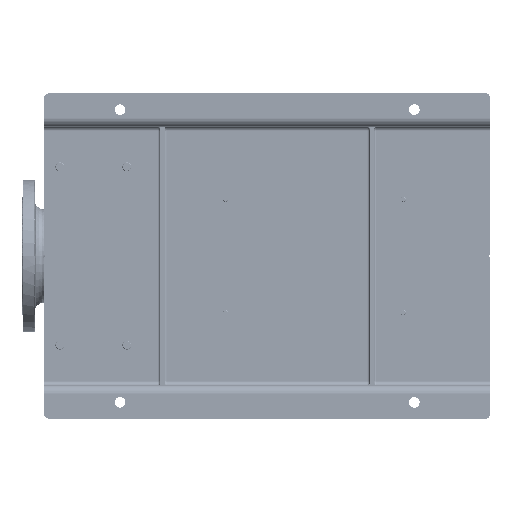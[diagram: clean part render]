
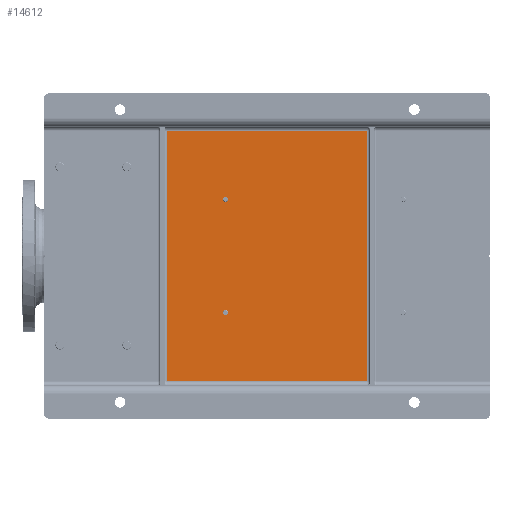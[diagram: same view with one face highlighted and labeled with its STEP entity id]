
A CAD part, front view. The second image highlights one B-rep face of the part: STEP entity #14612.
In plain terms, the highlighted planar face has unit normal (0, -1, 0).
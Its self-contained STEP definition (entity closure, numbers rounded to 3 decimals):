
#3683 = CIRCLE ( 'NONE', #32493, 6. ) ;
#7013 = VERTEX_POINT ( 'NONE', #97501 ) ;
#8690 = VERTEX_POINT ( 'NONE', #143090 ) ;
#14230 = DIRECTION ( 'NONE',  ( 0., 1., 0. ) ) ;
#14612 = ADVANCED_FACE ( 'NONE', ( #21648, #75994, #236139 ), #174231, .T. ) ;
#16978 = DIRECTION ( 'NONE',  ( 0., 1., 0. ) ) ;
#18307 = VECTOR ( 'NONE', #221385, 1000. ) ;
#20386 = DIRECTION ( 'NONE',  ( 0., 1., 0. ) ) ;
#21648 = FACE_BOUND ( 'NONE', #216914, .T. ) ;
#23149 = ORIENTED_EDGE ( 'NONE', *, *, #147715, .T. ) ;
#23697 = CARTESIAN_POINT ( 'NONE',  ( 645., 90., -270. ) ) ;
#32199 = ORIENTED_EDGE ( 'NONE', *, *, #109156, .T. ) ;
#32493 = AXIS2_PLACEMENT_3D ( 'NONE', #79737, #158517, #237320 ) ;
#34340 = ORIENTED_EDGE ( 'NONE', *, *, #152635, .T. ) ;
#44794 = ORIENTED_EDGE ( 'NONE', *, *, #122251, .T. ) ;
#47498 = CARTESIAN_POINT ( 'NONE',  ( 232., 90., -406.5 ) ) ;
#56596 = DIRECTION ( 'NONE',  ( 0., -1., 0. ) ) ;
#56626 = DIRECTION ( 'NONE',  ( 0., 0., -1. ) ) ;
#56810 = CARTESIAN_POINT ( 'NONE',  ( 492., 90., -406.5 ) ) ;
#75994 = FACE_BOUND ( 'NONE', #94877, .T. ) ;
#78551 = DIRECTION ( 'NONE',  ( 0., 0., -1. ) ) ;
#78990 = CARTESIAN_POINT ( 'NONE',  ( 645., 90., -725. ) ) ;
#79737 = CARTESIAN_POINT ( 'NONE',  ( 492., 90., -406.5 ) ) ;
#80420 = CIRCLE ( 'NONE', #130037, 6. ) ;
#81117 = CARTESIAN_POINT ( 'NONE',  ( 75., 90., -1000. ) ) ;
#82844 = EDGE_CURVE ( 'NONE', #106805, #210781, #80420, .T. ) ;
#90597 = CARTESIAN_POINT ( 'NONE',  ( 85., 90., -730. ) ) ;
#94877 = EDGE_LOOP ( 'NONE', ( #34340, #23149 ) ) ;
#96431 = CARTESIAN_POINT ( 'NONE',  ( 75., 90., -275. ) ) ;
#97501 = CARTESIAN_POINT ( 'NONE',  ( 85., 90., -725. ) ) ;
#98490 = VECTOR ( 'NONE', #120627, 1000. ) ;
#100619 = ORIENTED_EDGE ( 'NONE', *, *, #184027, .T. ) ;
#104177 = VERTEX_POINT ( 'NONE', #124626 ) ;
#106805 = VERTEX_POINT ( 'NONE', #248015 ) ;
#109156 = EDGE_CURVE ( 'NONE', #8690, #7013, #171956, .T. ) ;
#114402 = VECTOR ( 'NONE', #234646, 1000. ) ;
#115031 = CARTESIAN_POINT ( 'NONE',  ( 486., 90., -406.5 ) ) ;
#115812 = LINE ( 'NONE', #96431, #114402 ) ;
#116080 = CARTESIAN_POINT ( 'NONE',  ( 238., 90., -406.5 ) ) ;
#119333 = CARTESIAN_POINT ( 'NONE',  ( 75., 90., -725. ) ) ;
#120627 = DIRECTION ( 'NONE',  ( 1., 0., 0. ) ) ;
#120660 = EDGE_CURVE ( 'NONE', #222750, #8690, #115812, .T. ) ;
#122251 = EDGE_CURVE ( 'NONE', #7013, #193563, #240721, .T. ) ;
#124626 = CARTESIAN_POINT ( 'NONE',  ( 498., 90., -406.5 ) ) ;
#130037 = AXIS2_PLACEMENT_3D ( 'NONE', #135846, #16978, #174628 ) ;
#130571 = DIRECTION ( 'NONE',  ( 0., 0., -1. ) ) ;
#135846 = CARTESIAN_POINT ( 'NONE',  ( 238., 90., -406.5 ) ) ;
#143090 = CARTESIAN_POINT ( 'NONE',  ( 85., 90., -275. ) ) ;
#143811 = LINE ( 'NONE', #23697, #18307 ) ;
#147715 = EDGE_CURVE ( 'NONE', #104177, #244193, #166905, .T. ) ;
#152635 = EDGE_CURVE ( 'NONE', #244193, #104177, #3683, .T. ) ;
#158517 = DIRECTION ( 'NONE',  ( 0., 1., 0. ) ) ;
#166905 = CIRCLE ( 'NONE', #241190, 6. ) ;
#168978 = EDGE_CURVE ( 'NONE', #210781, #106805, #179862, .T. ) ;
#170023 = ORIENTED_EDGE ( 'NONE', *, *, #168978, .T. ) ;
#171956 = LINE ( 'NONE', #90597, #229938 ) ;
#174231 = PLANE ( 'NONE',  #204651 ) ;
#174628 = DIRECTION ( 'NONE',  ( 0., 0., -1. ) ) ;
#175896 = ORIENTED_EDGE ( 'NONE', *, *, #82844, .T. ) ;
#179862 = CIRCLE ( 'NONE', #225254, 6. ) ;
#180689 = EDGE_LOOP ( 'NONE', ( #32199, #44794, #100619, #253145 ) ) ;
#184027 = EDGE_CURVE ( 'NONE', #193563, #222750, #143811, .T. ) ;
#193563 = VERTEX_POINT ( 'NONE', #78990 ) ;
#204651 = AXIS2_PLACEMENT_3D ( 'NONE', #81117, #56596, #78551 ) ;
#208158 = DIRECTION ( 'NONE',  ( 0., 0., -1. ) ) ;
#210781 = VERTEX_POINT ( 'NONE', #47498 ) ;
#216914 = EDGE_LOOP ( 'NONE', ( #170023, #175896 ) ) ;
#221385 = DIRECTION ( 'NONE',  ( 0., 0., 1. ) ) ;
#222750 = VERTEX_POINT ( 'NONE', #248982 ) ;
#225254 = AXIS2_PLACEMENT_3D ( 'NONE', #116080, #20386, #56626 ) ;
#229938 = VECTOR ( 'NONE', #208158, 1000. ) ;
#234646 = DIRECTION ( 'NONE',  ( -1., 0., 0. ) ) ;
#236139 = FACE_OUTER_BOUND ( 'NONE', #180689, .T. ) ;
#237320 = DIRECTION ( 'NONE',  ( 0., 0., -1. ) ) ;
#240721 = LINE ( 'NONE', #119333, #98490 ) ;
#241190 = AXIS2_PLACEMENT_3D ( 'NONE', #56810, #14230, #130571 ) ;
#244193 = VERTEX_POINT ( 'NONE', #115031 ) ;
#248015 = CARTESIAN_POINT ( 'NONE',  ( 244., 90., -406.5 ) ) ;
#248982 = CARTESIAN_POINT ( 'NONE',  ( 645., 90., -275. ) ) ;
#253145 = ORIENTED_EDGE ( 'NONE', *, *, #120660, .T. ) ;
